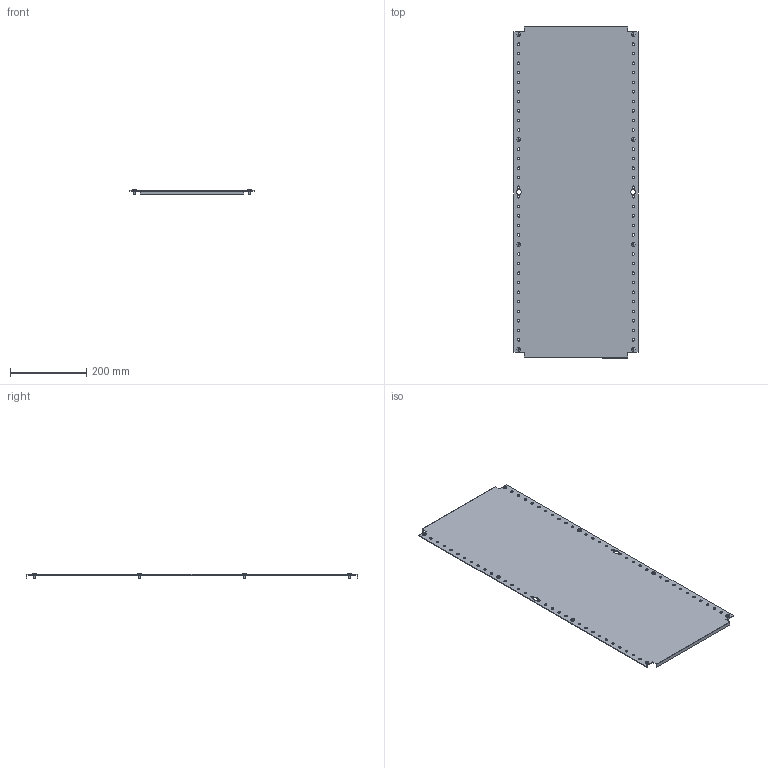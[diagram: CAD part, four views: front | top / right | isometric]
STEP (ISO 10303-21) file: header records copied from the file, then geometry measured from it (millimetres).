
FILE_DESCRIPTION (( 'STEP AP203' ), '1' );
FILE_NAME ('R6MP1040.STEP', '2025-03-28T12:02:44', ( '' ), ( '' ), 'SwSTEP 2.0', 'SolidWorks 2022', '' );
FILE_SCHEMA (( 'CONFIG_CONTROL_DESIGN' ));
Length unit declared in the file: millimetre
Products named in the file (3): R6MP1040; RB.3293.00.00.0; M5x12 DIN 7500 C Torx Zinc_stright
Assembly tree (9 placements, depth 2):
  R6MP1040
    RB.3293.00.00.0
    M5x12 DIN 7500 C Torx Zinc_stright  x8
Bounding box: 325 x 870 x 15.56 mm (x, y, z)
Volume: 512871.3 mm3; surface area: 576498.9 mm2
Topology: 9 solids, 9 shells, 230 faces, 540 edges, 336 vertices
Faces by surface type: plane 94, cylinder 88, torus 16, cone 16, sphere 8, bspline 8
Full cylindrical faces by diameter (mm): 5 x8, 6.5 x68, 9.5 x8
Entity records: 4453 total; most frequent: CARTESIAN_POINT 800, DIRECTION 660, ORIENTED_EDGE 504, EDGE_LOOP 334, AXIS2_PLACEMENT_3D 286, EDGE_CURVE 252, VERTEX_POINT 214, FACE_OUTER_BOUND 192
